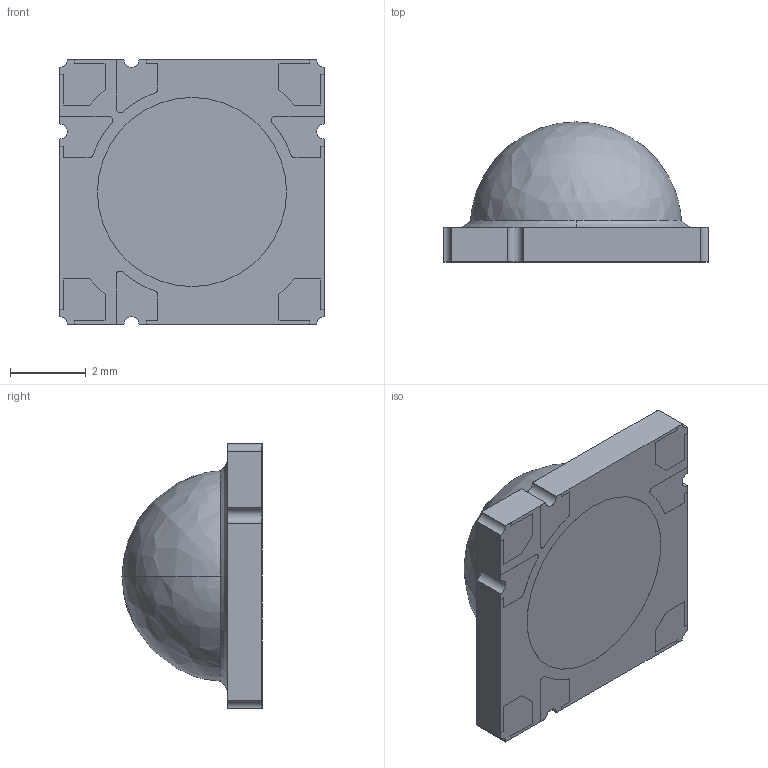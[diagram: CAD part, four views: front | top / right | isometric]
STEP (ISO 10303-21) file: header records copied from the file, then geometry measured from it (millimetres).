
FILE_DESCRIPTION (( 'STEP AP214' ), '1' );
FILE_NAME ('LZ4-00XX08-P3_LZ4-Emitter-Dome-Lens_RevA.STEP', '2012-11-29T17:25:50', ( '' ), ( '' ), 'SwSTEP 2.0', 'SolidWorks 2011', '' );
FILE_SCHEMA (( 'AUTOMOTIVE_DESIGN' ));
Length unit declared in the file: millimetre
Products named in the file (1): LZ4-00XX08-P3_LZ4-Emitter-Dome-Lens_RevA
Bounding box: 7 x 3.7 x 7 mm (x, y, z)
Volume: 90.5 mm3; surface area: 355.3 mm2
Topology: 25 solids, 25 shells, 287 faces, 680 edges, 450 vertices
Faces by surface type: plane 174, cylinder 75, bspline 34, torus 2, sphere 2
Entity records: 12988 total; most frequent: CARTESIAN_POINT 3030, ORIENTED_EDGE 1344, DIRECTION 1281, EDGE_CURVE 672, VERTEX_POINT 448, LINE 443, VECTOR 443, AXIS2_PLACEMENT_3D 419
